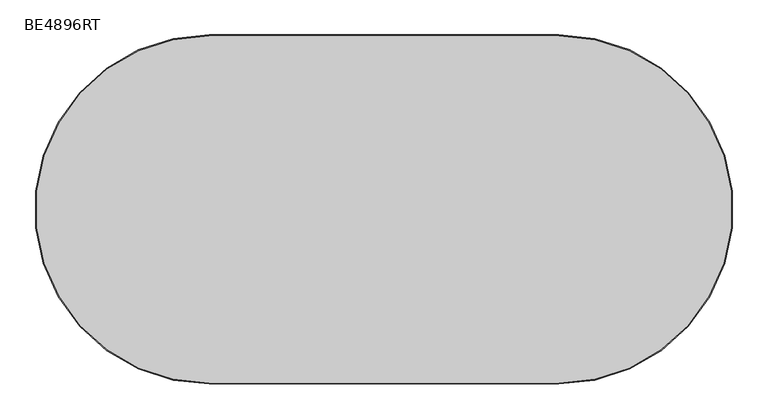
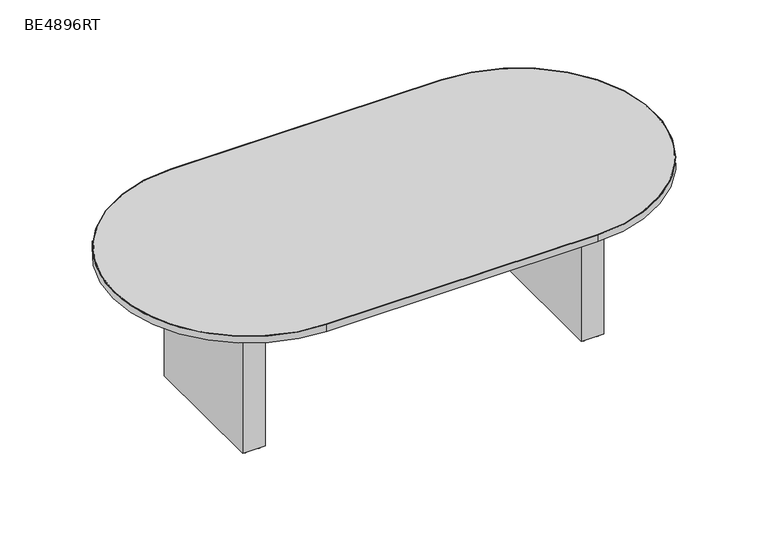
"""IFC4 building model written with IfcOpenShell, lengths in millimetres: furniture geometry, ERG-Beta-Conference_Table-Racetrack : BE4896RT."""

from ifc_helpers import new_model, si_unit, point, frame, frame_2d, origin, origin_with_axes, place, context, project, spatial, polyline, circle_curve, trimmed, segment, composite_curve, outline, extrude, source, transform, mapped, element, save


def be4896rt_288dafa8(model_context):
    return source(origin(), model_context, "Body", "SweptSolid", [
        extrude(outline(composite_curve([segment(trimmed(circle_curve(frame_2d((1273.175, 339.476527)), 9.525), [point((1263.65, 339.476527))], [point((1282.7, 339.476527))], False, "CARTESIAN"), True, "CONTINUOUS"), segment(trimmed(circle_curve(frame_2d((1273.175, 339.476527)), 9.525), [point((1282.7, 339.476527))], [point((1263.65, 339.476527))], False, "CARTESIAN"), True, "CONTINUOUS")], self_intersect=False)), origin_with_axes(), (0.0, 0.0, 1.0), 9.525),
        extrude(outline(composite_curve([segment(trimmed(circle_curve(frame_2d((1336.675, 339.476527)), 9.525), [point((1327.15, 339.476527))], [point((1346.2, 339.476527))], False, "CARTESIAN"), True, "CONTINUOUS"), segment(trimmed(circle_curve(frame_2d((1336.675, 339.476527)), 9.525), [point((1346.2, 339.476527))], [point((1327.15, 339.476527))], False, "CARTESIAN"), True, "CONTINUOUS")], self_intersect=False)), origin_with_axes(), (0.0, 0.0, 1.0), 9.525),
        extrude(outline(composite_curve([segment(trimmed(circle_curve(frame_2d((1273.175, -232.023473)), 9.525), [point((1263.65, -232.023473))], [point((1282.7, -232.023473))], False, "CARTESIAN"), True, "CONTINUOUS"), segment(trimmed(circle_curve(frame_2d((1273.175, -232.023473)), 9.525), [point((1282.7, -232.023473))], [point((1263.65, -232.023473))], False, "CARTESIAN"), True, "CONTINUOUS")], self_intersect=False)), origin_with_axes(), (0.0, 0.0, 1.0), 9.525),
        extrude(outline(composite_curve([segment(trimmed(circle_curve(frame_2d((1336.675, -232.023473)), 9.525), [point((1327.15, -232.023473))], [point((1346.2, -232.023473))], False, "CARTESIAN"), True, "CONTINUOUS"), segment(trimmed(circle_curve(frame_2d((1336.675, -232.023473)), 9.525), [point((1346.2, -232.023473))], [point((1327.15, -232.023473))], False, "CARTESIAN"), True, "CONTINUOUS")], self_intersect=False)), origin_with_axes(), (0.0, 0.0, 1.0), 9.525),
        extrude(outline(polyline([(1355.725, 358.526527), (1355.725, -251.073473), (1254.125, -251.073473), (1254.125, 358.526527), (1355.725, 358.526527)])), frame((0.0, 0.0, 9.525), z_axis=(0.0, 0.0, 1.0), x_axis=(1.0, 0.0, 0.0)), (0.0, 0.0, 1.0), 695.3249758),
        extrude(outline(composite_curve([segment(trimmed(circle_curve(frame_2d((-250.825, 339.476527)), 9.525), [point((-260.35, 339.476527))], [point((-241.3, 339.476527))], False, "CARTESIAN"), True, "CONTINUOUS"), segment(trimmed(circle_curve(frame_2d((-250.825, 339.476527)), 9.525), [point((-241.3, 339.476527))], [point((-260.35, 339.476527))], False, "CARTESIAN"), True, "CONTINUOUS")], self_intersect=False)), origin_with_axes(), (0.0, 0.0, 1.0), 9.525),
        extrude(outline(composite_curve([segment(trimmed(circle_curve(frame_2d((-187.325, 339.476527)), 9.525), [point((-196.85, 339.476527))], [point((-177.8, 339.476527))], False, "CARTESIAN"), True, "CONTINUOUS"), segment(trimmed(circle_curve(frame_2d((-187.325, 339.476527)), 9.525), [point((-177.8, 339.476527))], [point((-196.85, 339.476527))], False, "CARTESIAN"), True, "CONTINUOUS")], self_intersect=False)), origin_with_axes(), (0.0, 0.0, 1.0), 9.525),
        extrude(outline(composite_curve([segment(trimmed(circle_curve(frame_2d((-250.825, -232.023473)), 9.525), [point((-260.35, -232.023473))], [point((-241.3, -232.023473))], False, "CARTESIAN"), True, "CONTINUOUS"), segment(trimmed(circle_curve(frame_2d((-250.825, -232.023473)), 9.525), [point((-241.3, -232.023473))], [point((-260.35, -232.023473))], False, "CARTESIAN"), True, "CONTINUOUS")], self_intersect=False)), origin_with_axes(), (0.0, 0.0, 1.0), 9.525),
        extrude(outline(composite_curve([segment(trimmed(circle_curve(frame_2d((-187.325, -232.023473)), 9.525), [point((-196.85, -232.023473))], [point((-177.8, -232.023473))], False, "CARTESIAN"), True, "CONTINUOUS"), segment(trimmed(circle_curve(frame_2d((-187.325, -232.023473)), 9.525), [point((-177.8, -232.023473))], [point((-196.85, -232.023473))], False, "CARTESIAN"), True, "CONTINUOUS")], self_intersect=False)), origin_with_axes(), (0.0, 0.0, 1.0), 9.525),
        extrude(outline(polyline([(-168.275, 358.526527), (-168.275, -251.073473), (-269.875, -251.073473), (-269.875, 358.526527), (-168.275, 358.526527)])), frame((0.0, 0.0, 9.525), z_axis=(0.0, 0.0, 1.0), x_axis=(1.0, 0.0, 0.0)), (0.0, 0.0, 1.0), 695.3249758),
        extrude(outline(composite_curve([segment(polyline([(1152.525, -552.698473), (-66.675, -552.698473)]), True, "CONTINUOUS"), segment(trimmed(circle_curve(frame_2d((-66.675, 53.726527)), 606.425), [point((-66.675, -552.698473))], [point((-66.675, 660.151527))], False, "CARTESIAN"), True, "CONTINUOUS"), segment(polyline([(-66.675, 660.151527), (1152.525, 660.151527)]), True, "CONTINUOUS"), segment(trimmed(circle_curve(frame_2d((1152.525, 53.726527)), 606.425), [point((1152.525, 660.151527))], [point((1152.525, -552.698473))], False, "CARTESIAN"), True, "CONTINUOUS")], self_intersect=False)), frame((0.0, 0.0, 704.85), z_axis=(0.0, 0.0, 1.0), x_axis=(1.0, 0.0, 0.0)), (0.0, 0.0, 1.0), 31.75),
        extrude(outline(composite_curve([segment(polyline([(-66.675, 663.326527), (1152.525, 663.326527)]), True, "CONTINUOUS"), segment(trimmed(circle_curve(frame_2d((1152.525, 53.726527)), 609.6), [point((1152.525, 663.326527))], [point((1152.525, -555.873473))], False, "CARTESIAN"), True, "CONTINUOUS"), segment(polyline([(1152.525, -555.873473), (-66.675, -555.873473)]), True, "CONTINUOUS"), segment(trimmed(circle_curve(frame_2d((-66.675, 53.726527)), 609.6), [point((-66.675, -555.873473))], [point((-66.675, 663.326527))], False, "CARTESIAN"), True, "CONTINUOUS")], self_intersect=False), holes=[composite_curve([segment(trimmed(circle_curve(frame_2d((-66.675, 53.726527)), 606.425), [point((-66.675, 660.151527))], [point((-66.675, -552.698473))], True, "CARTESIAN"), True, "CONTINUOUS"), segment(polyline([(-66.675, -552.698473), (1152.525, -552.698473)]), True, "CONTINUOUS"), segment(trimmed(circle_curve(frame_2d((1152.525, 53.726527)), 606.425), [point((1152.525, -552.698473))], [point((1152.525, 660.151527))], True, "CARTESIAN"), True, "CONTINUOUS"), segment(polyline([(1152.525, 660.151527), (-66.675, 660.151527)]), True, "CONTINUOUS")], self_intersect=False)]), frame((0.0, 0.0, 704.85), z_axis=(0.0, 0.0, 1.0), x_axis=(1.0, 0.0, 0.0)), (0.0, 0.0, 1.0), 31.75),
    ])


if __name__ == "__main__":
    model = new_model("IFC4")
    model_context = context("Model", 3, world=origin())
    ifc_project = project(units=[si_unit("LENGTHUNIT", "METRE", prefix="MILLI")], contexts=[model_context])
    site = spatial("IfcSite", under=ifc_project)
    building = spatial("IfcBuilding", under=site)
    placement = place(None, origin())
    be4896rt_shape = be4896rt_288dafa8(model_context)
    element("IfcFurniture", 1, ObjectType="ERG-Beta-Conference_Table-Racetrack : BE4896RT", at=placement, inside=building, context=model_context, shape_type="MappedRepresentation", body=[
        mapped(be4896rt_shape, transform((0.0, 0.0, 0.0), x_axis=(1.0, 0.0, 0.0), y_axis=(0.0, 1.0, 0.0), z_axis=(0.0, 0.0, 1.0))),
    ])
    save(model, "model.ifc")
